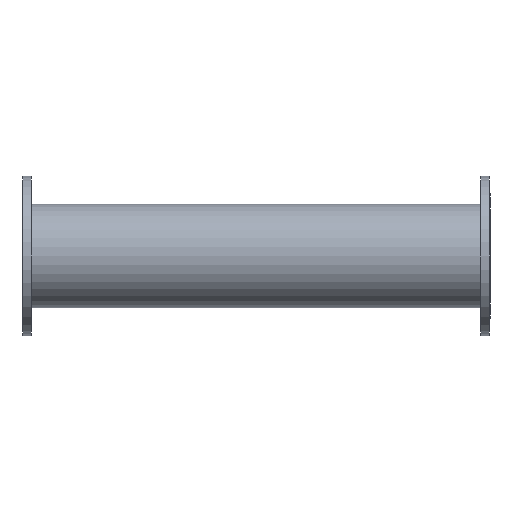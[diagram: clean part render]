
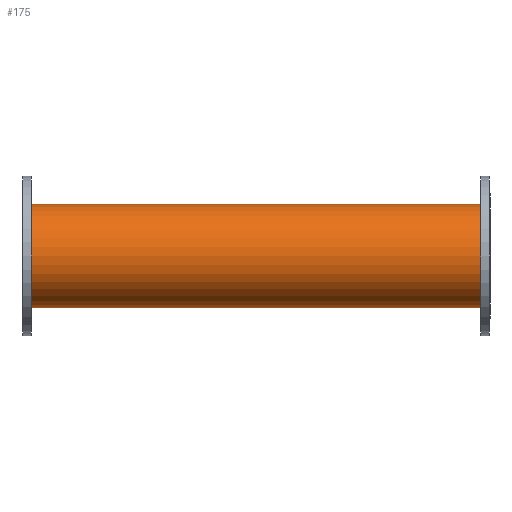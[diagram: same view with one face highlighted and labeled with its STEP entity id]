
A CAD part, front view. The second image highlights one B-rep face of the part: STEP entity #175.
In plain terms, the highlighted cylindrical face has radius 111 mm (diameter 222 mm), a partial arc.
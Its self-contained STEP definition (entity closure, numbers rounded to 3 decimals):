
#175=ADVANCED_FACE('',(#411),#412,.T.);
#411=FACE_OUTER_BOUND('',#738,.T.);
#412=CYLINDRICAL_SURFACE('',#739,111.0);
#738=EDGE_LOOP('',(#1132,#1133,#1134,#1135));
#739=AXIS2_PLACEMENT_3D('',#1136,#1137,#1138);
#1132=ORIENTED_EDGE('',*,*,#1799,.T.);
#1133=ORIENTED_EDGE('',*,*,#1800,.T.);
#1134=ORIENTED_EDGE('',*,*,#1801,.T.);
#1135=ORIENTED_EDGE('',*,*,#1702,.T.);
#1136=CARTESIAN_POINT('',(10.0,0.0,0.));
#1137=DIRECTION('',(1.0,0.0,0.));
#1138=DIRECTION('',(0.,0.0,-1.0));
#1702=EDGE_CURVE('',#1999,#1998,#2001,.T.);
#1799=EDGE_CURVE('',#1998,#2170,#2171,.T.);
#1800=EDGE_CURVE('',#2170,#2172,#2173,.T.);
#1801=EDGE_CURVE('',#2172,#1999,#2174,.T.);
#1998=VERTEX_POINT('',#2425);
#1999=VERTEX_POINT('',#2426);
#2001=CIRCLE('',#2428,111.0);
#2170=VERTEX_POINT('',#2615);
#2171=LINE('',#2616,#2617);
#2172=VERTEX_POINT('',#2618);
#2173=CIRCLE('',#2619,111.0);
#2174=LINE('',#2620,#2621);
#2425=CARTESIAN_POINT('',(10.0,0.0,-111.0));
#2426=CARTESIAN_POINT('',(10.,0.,111.0));
#2428=AXIS2_PLACEMENT_3D('',#2913,#2914,#2915);
#2615=CARTESIAN_POINT('',(990.0,0.0,-111.0));
#2616=CARTESIAN_POINT('',(10.0,0.,-111.0));
#2617=VECTOR('',#3129,1.0);
#2618=CARTESIAN_POINT('',(990.0,0.,111.0));
#2619=AXIS2_PLACEMENT_3D('',#3130,#3131,#3132);
#2620=CARTESIAN_POINT('',(10.,0.,111.0));
#2621=VECTOR('',#3133,1.0);
#2913=CARTESIAN_POINT('',(10.0,0.0,0.));
#2914=DIRECTION('',(1.0,0.0,0.));
#2915=DIRECTION('',(0.,0.0,-1.0));
#3129=DIRECTION('',(1.0,0.0,0.));
#3130=CARTESIAN_POINT('',(990.0,0.0,0.));
#3131=DIRECTION('',(-1.0,-0.0,0.));
#3132=DIRECTION('',(0.,0.0,-1.0));
#3133=DIRECTION('',(-1.0,-0.0,0.));
